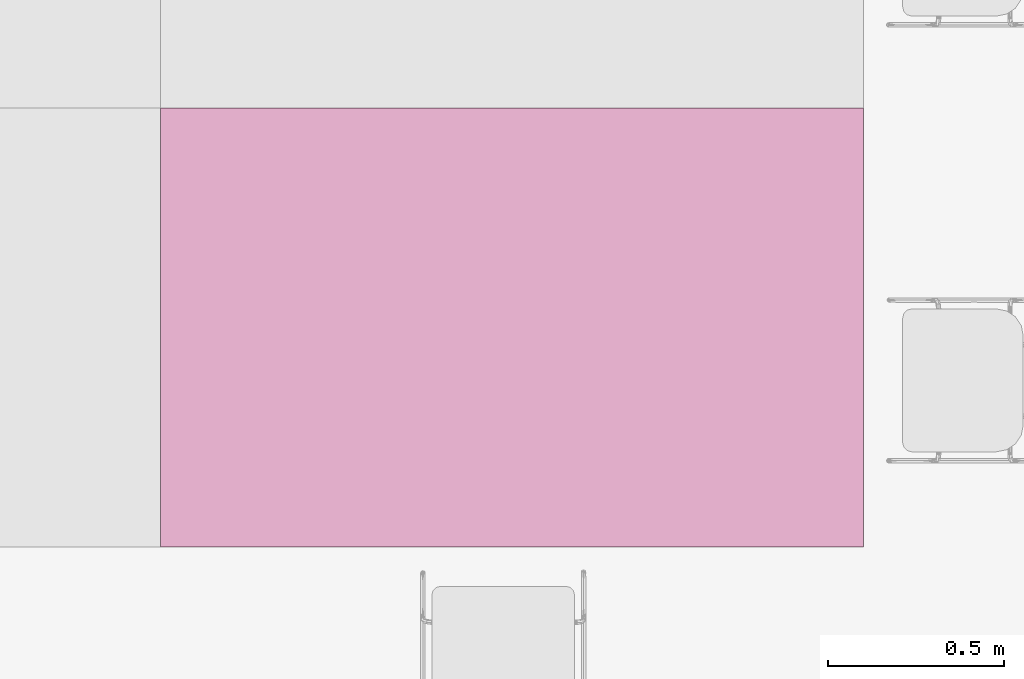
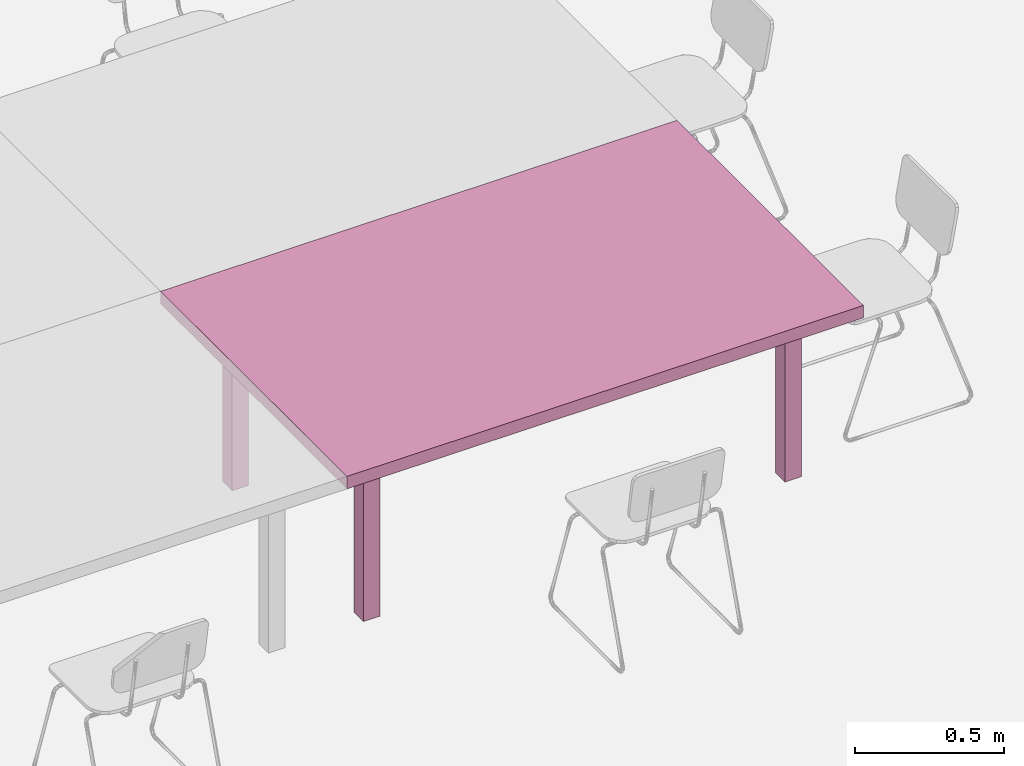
# One storey, part 22 of 27: 1 furnishing.
"""IFC2X3 building model written with IfcOpenShell, lengths in centimetres."""

from ifc_helpers import new_model, entity, si_unit, converted_unit, derived_unit, direction, frame, frame_2d, origin, origin_2d_with_axis, place, context, subcontext, project, spatial, rectangle, extrude, source, transform, mapped, material, material_list, type_object, type_shapes, element, save


model = new_model("IFC2X3")

# Units and contexts
model_context = context("Model", 3, precision=0.001, world=origin(), true_north=direction((6.12303176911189e-17, 1.0)))
body_context = subcontext(model_context, "Body", "Model", "MODEL_VIEW")
ifc_project = project(units=[si_unit("LENGTHUNIT", "METRE", prefix="CENTI"), si_unit("AREAUNIT", "SQUARE_METRE"), si_unit("VOLUMEUNIT", "CUBIC_METRE"), converted_unit("PLANEANGLEUNIT", "DEGREE", entity("IfcRatioMeasure", 0.0174532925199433), si_unit("PLANEANGLEUNIT", "RADIAN"), dimensions=[0, 0, 0, 0, 0, 0, 0]), si_unit("MASSUNIT", "GRAM", prefix="KILO"), derived_unit("MASSDENSITYUNIT", [(si_unit("MASSUNIT", "GRAM", prefix="KILO"), 1), (si_unit("LENGTHUNIT", "METRE"), -3)]), derived_unit("MOMENTOFINERTIAUNIT", [(si_unit("LENGTHUNIT", "METRE"), 4)]), si_unit("TIMEUNIT", "SECOND"), si_unit("FREQUENCYUNIT", "HERTZ"), si_unit("THERMODYNAMICTEMPERATUREUNIT", "DEGREE_CELSIUS"), derived_unit("THERMALTRANSMITTANCEUNIT", [(si_unit("MASSUNIT", "GRAM", prefix="KILO"), 1), (si_unit("THERMODYNAMICTEMPERATUREUNIT", "KELVIN"), -1), (si_unit("TIMEUNIT", "SECOND"), -3)]), derived_unit("VOLUMETRICFLOWRATEUNIT", [(si_unit("LENGTHUNIT", "METRE"), 3), (si_unit("TIMEUNIT", "SECOND"), -1)]), si_unit("ELECTRICCURRENTUNIT", "AMPERE"), si_unit("ELECTRICVOLTAGEUNIT", "VOLT"), si_unit("POWERUNIT", "WATT"), si_unit("FORCEUNIT", "NEWTON", prefix="KILO"), si_unit("ILLUMINANCEUNIT", "LUX"), si_unit("LUMINOUSFLUXUNIT", "LUMEN"), si_unit("LUMINOUSINTENSITYUNIT", "CANDELA"), derived_unit("USERDEFINED", [(si_unit("MASSUNIT", "GRAM", prefix="KILO"), -1), (si_unit("LENGTHUNIT", "METRE"), -2), (si_unit("TIMEUNIT", "SECOND"), 3), (si_unit("LUMINOUSFLUXUNIT", "LUMEN"), 1)]), derived_unit("LINEARVELOCITYUNIT", [(si_unit("LENGTHUNIT", "METRE"), 1), (si_unit("TIMEUNIT", "SECOND"), -1)]), si_unit("PRESSUREUNIT", "PASCAL"), derived_unit("USERDEFINED", [(si_unit("LENGTHUNIT", "METRE"), -2), (si_unit("MASSUNIT", "GRAM", prefix="KILO"), 1), (si_unit("TIMEUNIT", "SECOND"), -2)]), derived_unit("LINEARFORCEUNIT", [(si_unit("MASSUNIT", "GRAM", prefix="KILO"), 1), (si_unit("LENGTHUNIT", "METRE"), 1), (si_unit("TIMEUNIT", "SECOND"), -2), (si_unit("LENGTHUNIT", "METRE"), -1)]), derived_unit("PLANARFORCEUNIT", [(si_unit("MASSUNIT", "GRAM", prefix="KILO"), 1), (si_unit("LENGTHUNIT", "METRE"), 1), (si_unit("TIMEUNIT", "SECOND"), -2), (si_unit("LENGTHUNIT", "METRE"), -2)])], contexts=[model_context])

# Site, building, storey
site_placement = place(None, origin())
site = spatial("IfcSite", under=ifc_project, at=site_placement, Name="Default", CompositionType="ELEMENT")
building_placement = place(site_placement, origin())
building = spatial("IfcBuilding", under=site, at=building_placement, CompositionType="ELEMENT")
storey_placement = place(building_placement, origin())
storey = spatial("IfcBuildingStorey", under=building, at=storey_placement, Name="Poziom 0 A +/-0,00", CompositionType="ELEMENT", Elevation=3.38570427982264e-11)

# Furnishing
ifc_material = material(Name="MDF biały")
ifc_material_list = material_list([ifc_material, ifc_material, ifc_material, ifc_material, ifc_material])
furniture_type = type_object("IfcFurnitureType", Name="Stół - prostokątny:2000 x 1250", material=ifc_material_list)
shared_shape = source(origin(), body_context, "Body", "SweptSolid", [
    extrude(rectangle(XDim=200.0, YDim=125.0, at=origin_2d_with_axis()), frame((0.0, 0.0, 68.92), z_axis=(0.0, 0.0, 1.0), x_axis=(-1.0, 0.0, 0.0)), (0.0, 0.0, 1.0), 5.08),
    extrude(rectangle(XDim=6.35000000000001, YDim=6.35000000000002, at=origin_2d_with_axis()), frame((81.585, 44.0850000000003, 0.0), z_axis=(0.0, 0.0, 1.0), x_axis=(0.0, -1.0, 0.0)), (0.0, 0.0, 1.0), 68.92),
    extrude(rectangle(XDim=6.34999999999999, YDim=6.35000000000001, at=frame_2d((1.35447209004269e-14, -6.88338275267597e-15), x_axis=(1.0, 0.0))), frame((-81.5849999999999, 44.0850000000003, 0.0), z_axis=(0.0, 0.0, 1.0), x_axis=(-1.0, 0.0, 0.0)), (0.0, 0.0, 1.0), 68.92),
    extrude(rectangle(XDim=6.35000000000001, YDim=6.34999999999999, at=origin_2d_with_axis()), frame((-81.585, -44.0850000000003, 0.0), z_axis=(0.0, 0.0, 1.0), x_axis=(0.0, 1.0, 0.0)), (0.0, 0.0, 1.0), 68.92),
    extrude(rectangle(XDim=6.35000000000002, YDim=6.35000000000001, at=frame_2d((0.0, -6.88338275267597e-15), x_axis=(1.0, 0.0))), frame((81.585, -44.0850000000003, 0.0)), (0.0, 0.0, 1.0), 68.92),
])
type_shapes(furniture_type, [shared_shape])
furnishing_placement = place(storey_placement, frame((-2606.7650963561, 698.105958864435, 0.6)))
element("IfcFurnishingElement", 1, at=furnishing_placement, inside=storey, type_object=furniture_type, material=ifc_material, Name="Stół - prostokątny:2000 x 1250", ObjectType="Stół - prostokątny:2000 x 1250", context=body_context, shape_type="MappedRepresentation", body=[
    mapped(shared_shape, transform((0.0, 0.0, 0.0), scale=1.0)),
])

save(model, "model.ifc")
